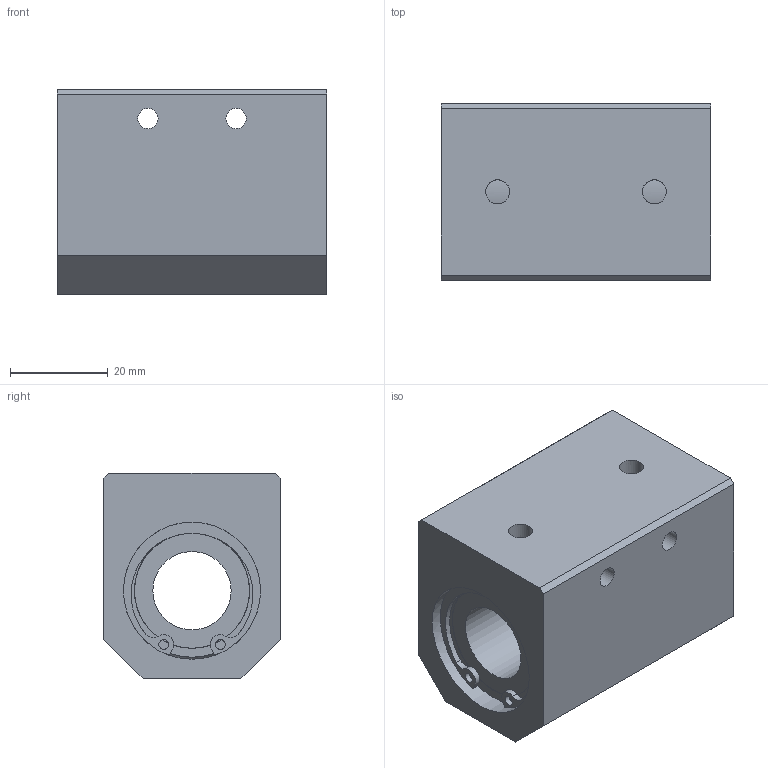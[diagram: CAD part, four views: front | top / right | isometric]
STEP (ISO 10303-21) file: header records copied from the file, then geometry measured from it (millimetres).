
FILE_DESCRIPTION((''),'2;1');
FILE_NAME('D:\製品 (図面)\カタログ用3D\メンテナンスフリー関連\STEP形式\CH-MF\CH16MF.stp','2010-06-01T15:28:50',('Tsuchiya'),(''),'Autodesk Inventor 10','Autodesk Inventor 10','');
FILE_SCHEMA(('AUTOMOTIVE_DESIGN { 1 0 10303 214 1 1 1 1 }'));
Length unit declared in the file: millimetre
Products named in the file (1): CH16MF
Bounding box: 55 x 36 x 42 mm (x, y, z)
Volume: 63853.9 mm3; surface area: 16100.5 mm2
Topology: 1 solids, 3 shells, 75 faces, 191 edges, 120 vertices
Faces by surface type: plane 33, bspline 22, cylinder 18, torus 2
Full cylindrical faces by diameter (mm): 2 x2, 16 x1, 23.5 x2, 26.6 x2, 28 x4
Entity records: 2388 total; most frequent: CARTESIAN_POINT 712, DIRECTION 356, ORIENTED_EDGE 304, AXIS2_PLACEMENT_3D 152, EDGE_CURVE 152, EDGE_LOOP 118, VERTEX_POINT 104, CIRCLE 98
